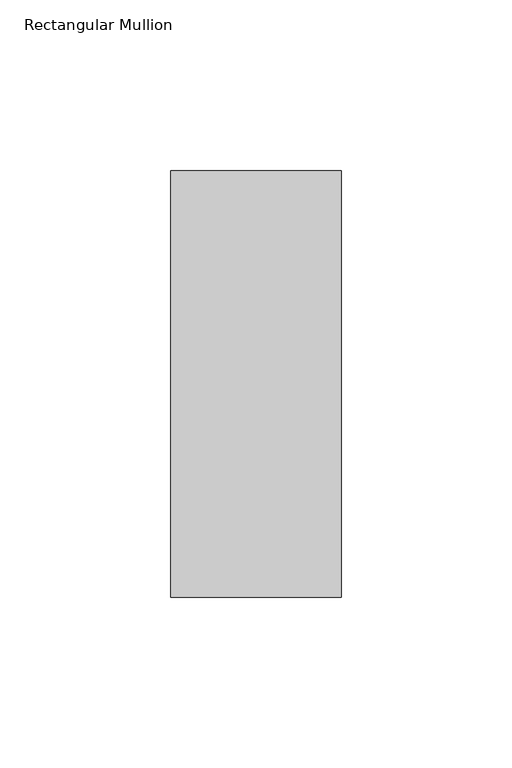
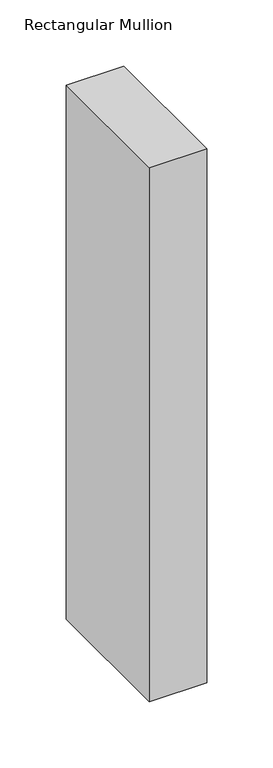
"""IFC4 building model written with IfcOpenShell, lengths in millimetres: member geometry, Rectangular Mullion : DucoSun Cubic Design profile 50x125 for louvre 500."""

from ifc_helpers import new_model, si_unit, frame, origin, place, context, project, spatial, polyline, outline, extrude, source, transform, mapped, element, save


def rectangular_mullion_27ded27d(model_context):
    return source(origin(), model_context, "Body", "SweptSolid", [
        extrude(outline(polyline([(0.0, 187.5), (-50.0, 187.5), (-50.0, 312.5), (0.0, 312.5), (0.0, 187.5)])), frame((0.0, 0.0, -491.4999999), z_axis=(0.0, 0.0, 1.0), x_axis=(1.0, 0.0, 0.0)), (0.0, 0.0, 1.0), 491.4999999),
    ])


if __name__ == "__main__":
    model = new_model("IFC4")
    model_context = context("Model", 3, world=origin())
    ifc_project = project(units=[si_unit("LENGTHUNIT", "METRE", prefix="MILLI")], contexts=[model_context])
    site = spatial("IfcSite", under=ifc_project)
    building = spatial("IfcBuilding", under=site)
    placement = place(None, origin())
    rectangular_mullion_shape = rectangular_mullion_27ded27d(model_context)
    element("IfcMember", 1, ObjectType="Rectangular Mullion : DucoSun Cubic Design profile 50x125 for louvre 500", at=placement, inside=building, context=model_context, shape_type="MappedRepresentation", body=[
        mapped(rectangular_mullion_shape, transform((0.0, 0.0, 0.0), x_axis=(1.0, 0.0, 0.0), y_axis=(0.0, 1.0, 0.0), z_axis=(0.0, 0.0, 1.0))),
    ])
    save(model, "model.ifc")
